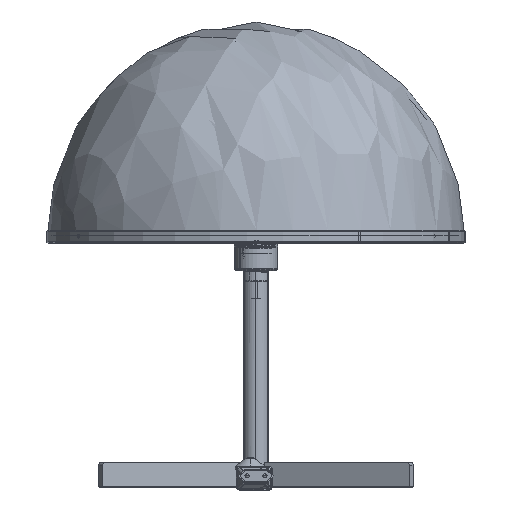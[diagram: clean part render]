
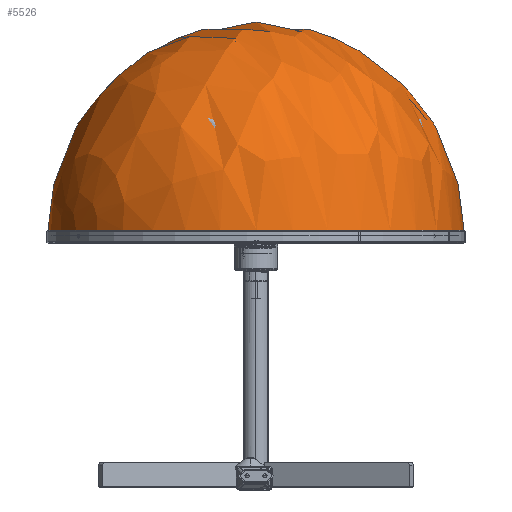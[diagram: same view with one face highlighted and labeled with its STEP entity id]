
A CAD part, left-side view. The second image highlights one B-rep face of the part: STEP entity #5526.
In plain terms, the highlighted free-form (B-spline) face has degree [2, 2] with [5, 5] control points.
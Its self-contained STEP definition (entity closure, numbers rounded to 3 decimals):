
#5526=ADVANCED_FACE('',(#6788),#25477,.T.);
#6788=FACE_OUTER_BOUND('',#8071,.T.);
#8071=EDGE_LOOP('',(#11567,#11568));
#11567=ORIENTED_EDGE('',*,*,#17111,.T.);
#11568=ORIENTED_EDGE('',*,*,#17113,.F.);
#17111=EDGE_CURVE('',#24425,#24426,#19572,.T.);
#17113=EDGE_CURVE('',#24425,#24426,#19573,.T.);
#19572=TRIMMED_CURVE($,#21182,(#54452),(#54453),.T.,.CARTESIAN.);
#19573=TRIMMED_CURVE($,#21183,(#54628),(#54629),.T.,.CARTESIAN.);
#21182=CIRCLE('',#27392,210.);
#21183=CIRCLE('',#27393,210.);
#24425=VERTEX_POINT('',#54448);
#24426=VERTEX_POINT('',#54449);
#25477=(
BOUNDED_SURFACE()
B_SPLINE_SURFACE(2,2,((#54398,#54399,#54400,#54401,#54402),(#54403,#54404,
#54405,#54406,#54407),(#54408,#54409,#54410,#54411,#54412),(#54413,#54414,
#54415,#54416,#54417),(#54418,#54419,#54420,#54421,#54422)),
 .UNSPECIFIED.,.F.,.F.,.F.)
B_SPLINE_SURFACE_WITH_KNOTS((3,2,3),(3,2,3),(3.142,4.712,
6.283),(4.712,6.283,7.854),
 .UNSPECIFIED.)
GEOMETRIC_REPRESENTATION_ITEM()
RATIONAL_B_SPLINE_SURFACE(((1.,0.707,1.,0.707,1.),
(0.707,0.5,0.707,0.5,0.707),(1.,0.707,
1.,0.707,1.),(0.707,0.5,0.707,0.5,0.707),
(1.,0.707,1.,0.707,1.)))
REPRESENTATION_ITEM('')
SURFACE()
);
#27392=AXIS2_PLACEMENT_3D($,#54451,#30934,#30935);
#27393=AXIS2_PLACEMENT_3D($,#54627,#30936,#30937);
#30934=DIRECTION('',(0.,0.,1.));
#30935=DIRECTION('',(-0.502,0.865,0.));
#30936=DIRECTION('',(0.,0.,-1.));
#30937=DIRECTION('',(-0.502,0.865,0.));
#54398=CARTESIAN_POINT('',(-92.951,181.604,259.5));
#54399=CARTESIAN_POINT('',(88.653,287.055,259.5));
#54400=CARTESIAN_POINT('',(194.104,105.451,259.5));
#54401=CARTESIAN_POINT('',(299.555,-76.153,259.5));
#54402=CARTESIAN_POINT('',(117.951,-181.604,259.5));
#54403=CARTESIAN_POINT('',(-92.951,181.604,259.5));
#54404=CARTESIAN_POINT('',(88.653,287.055,469.5));
#54405=CARTESIAN_POINT('',(194.104,105.451,469.5));
#54406=CARTESIAN_POINT('',(299.555,-76.153,469.5));
#54407=CARTESIAN_POINT('',(117.951,-181.604,259.5));
#54408=CARTESIAN_POINT('',(-92.951,181.604,259.5));
#54409=CARTESIAN_POINT('',(-92.951,181.604,469.5));
#54410=CARTESIAN_POINT('',(12.5,0.,469.5));
#54411=CARTESIAN_POINT('',(117.951,-181.604,469.5));
#54412=CARTESIAN_POINT('',(117.951,-181.604,259.5));
#54413=CARTESIAN_POINT('',(-92.951,181.604,259.5));
#54414=CARTESIAN_POINT('',(-274.555,76.153,469.5));
#54415=CARTESIAN_POINT('',(-169.104,-105.451,469.5));
#54416=CARTESIAN_POINT('',(-63.653,-287.055,469.5));
#54417=CARTESIAN_POINT('',(117.951,-181.604,259.5));
#54418=CARTESIAN_POINT('',(-92.951,181.604,259.5));
#54419=CARTESIAN_POINT('',(-274.555,76.153,259.5));
#54420=CARTESIAN_POINT('',(-169.104,-105.451,259.5));
#54421=CARTESIAN_POINT('',(-63.653,-287.055,259.5));
#54422=CARTESIAN_POINT('',(117.951,-181.604,259.5));
#54448=CARTESIAN_POINT('',(-92.951,181.604,259.5));
#54449=CARTESIAN_POINT('',(117.951,-181.604,259.5));
#54451=CARTESIAN_POINT('',(12.5,0.,259.5));
#54452=CARTESIAN_POINT('',(-92.951,181.604,259.5));
#54453=CARTESIAN_POINT('',(117.951,-181.604,259.5));
#54627=CARTESIAN_POINT('',(12.5,0.,259.5));
#54628=CARTESIAN_POINT('',(-92.951,181.604,259.5));
#54629=CARTESIAN_POINT('',(117.951,-181.604,259.5));
